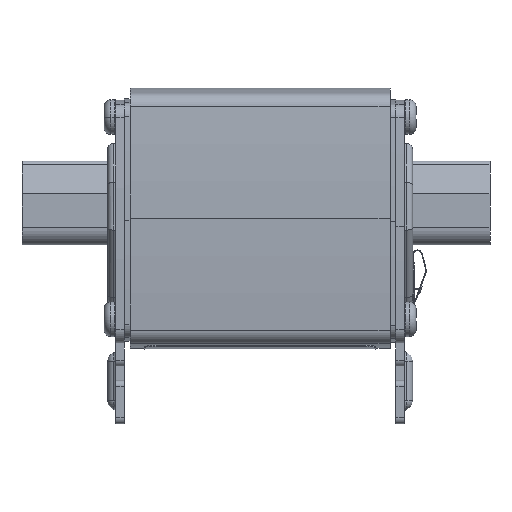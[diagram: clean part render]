
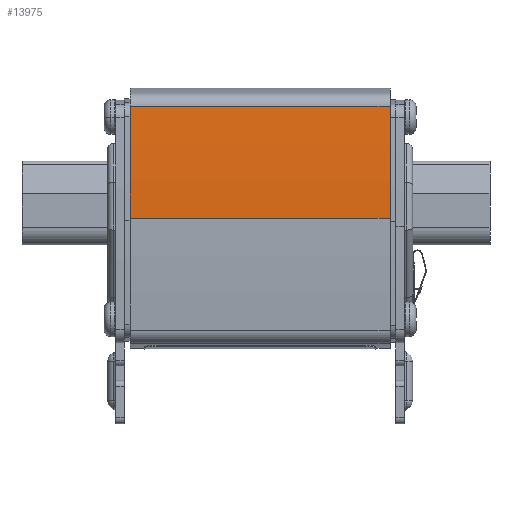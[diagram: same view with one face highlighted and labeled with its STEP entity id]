
A CAD part, front view. The second image highlights one B-rep face of the part: STEP entity #13975.
In plain terms, the highlighted cylindrical face has radius 235.625 mm (diameter 471.249 mm), a partial arc.
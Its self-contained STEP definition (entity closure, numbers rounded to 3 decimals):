
#8924 = DIRECTION ( 'NONE',  ( 1., 0., 0. ) ) ;
#8925 = VECTOR ( 'NONE', #8924, 1000. ) ;
#8926 = CARTESIAN_POINT ( 'NONE',  ( -20.452, -7.292, -2.925 ) ) ;
#8932 = LINE ( 'NONE', #8926, #8925 ) ;
#8933 = CARTESIAN_POINT ( 'NONE',  ( -20.452, -7.292, -2.925 ) ) ;
#8934 = DIRECTION ( 'NONE',  ( 0., 1., 0. ) ) ;
#8935 = DIRECTION ( 'NONE',  ( -1., 0., 0. ) ) ;
#8936 = CARTESIAN_POINT ( 'NONE',  ( -20.452, 228.331, -3.736 ) ) ;
#8937 = AXIS2_PLACEMENT_3D ( 'NONE', #8936, #8935, #8934 ) ;
#8938 = CIRCLE ( 'NONE', #8937, 235.625 ) ;
#8953 = DIRECTION ( 'NONE',  ( 0., 1., 0. ) ) ;
#8954 = DIRECTION ( 'NONE',  ( 1., 0., 0. ) ) ;
#8955 = AXIS2_PLACEMENT_3D ( 'NONE', #8957, #8954, #8953 ) ;
#8956 = CYLINDRICAL_SURFACE ( 'NONE', #8955, 235.625 ) ;
#8957 = CARTESIAN_POINT ( 'NONE',  ( -20.452, 228.331, -3.736 ) ) ;
#8958 = FACE_OUTER_BOUND ( 'NONE', #13978, .T. ) ;
#9116 = DIRECTION ( 'NONE',  ( 1., 0., 0. ) ) ;
#9117 = VECTOR ( 'NONE', #9116, 1000. ) ;
#9118 = CARTESIAN_POINT ( 'NONE',  ( -20.452, -6.427, 16.453 ) ) ;
#9119 = LINE ( 'NONE', #9118, #9117 ) ;
#9120 = CARTESIAN_POINT ( 'NONE',  ( -20.452, -6.427, 16.453 ) ) ;
#9126 = CARTESIAN_POINT ( 'NONE',  ( 24.548, -6.427, 16.453 ) ) ;
#9236 = CIRCLE ( 'NONE', #9426, 235.625 ) ;
#9318 = DIRECTION ( 'NONE',  ( 0., 1., 0. ) ) ;
#9354 = DIRECTION ( 'NONE',  ( -1., 0., 0. ) ) ;
#9424 = CARTESIAN_POINT ( 'NONE',  ( 24.548, 228.331, -3.736 ) ) ;
#9425 = CARTESIAN_POINT ( 'NONE',  ( 24.548, -7.292, -2.925 ) ) ;
#9426 = AXIS2_PLACEMENT_3D ( 'NONE', #9424, #9354, #9318 ) ;
#13789 = ORIENTED_EDGE ( 'NONE', *, *, #13900, .F. ) ;
#13790 = ORIENTED_EDGE ( 'NONE', *, *, #13791, .F. ) ;
#13791 = EDGE_CURVE ( 'NONE', #13792, #13898, #8938, .T. ) ;
#13792 = VERTEX_POINT ( 'NONE', #8933 ) ;
#13793 = ORIENTED_EDGE ( 'NONE', *, *, #13794, .T. ) ;
#13794 = EDGE_CURVE ( 'NONE', #13792, #13977, #8932, .T. ) ;
#13817 = ORIENTED_EDGE ( 'NONE', *, *, #13976, .T. ) ;
#13894 = VERTEX_POINT ( 'NONE', #9126 ) ;
#13898 = VERTEX_POINT ( 'NONE', #9120 ) ;
#13900 = EDGE_CURVE ( 'NONE', #13898, #13894, #9119, .T. ) ;
#13975 = ADVANCED_FACE ( 'NONE', ( #8958 ), #8956, .T. ) ;
#13976 = EDGE_CURVE ( 'NONE', #13977, #13894, #9236, .T. ) ;
#13977 = VERTEX_POINT ( 'NONE', #9425 ) ;
#13978 = EDGE_LOOP ( 'NONE', ( #13817, #13789, #13790, #13793 ) ) ;
